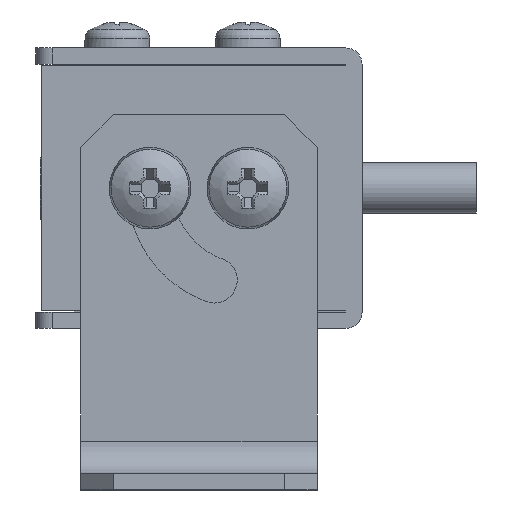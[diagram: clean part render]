
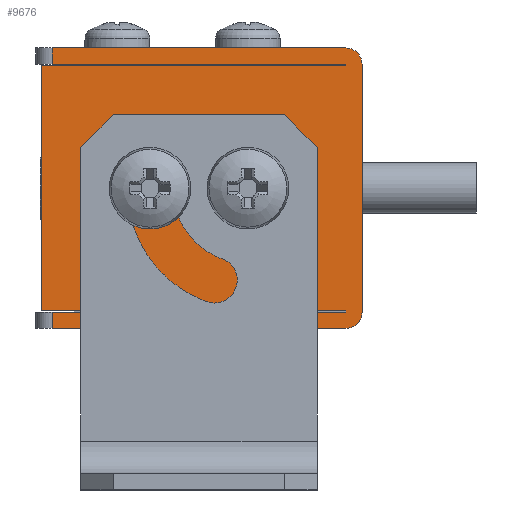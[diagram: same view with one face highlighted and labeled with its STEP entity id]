
A CAD part, left-side view. The second image highlights one B-rep face of the part: STEP entity #9676.
In plain terms, the highlighted planar face has unit normal (-1, 0, 0).
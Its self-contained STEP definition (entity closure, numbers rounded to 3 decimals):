
#706=FACE_BOUND('',#1985,.T.);
#707=FACE_BOUND('',#1986,.T.);
#773=CIRCLE('',#10279,1.);
#774=CIRCLE('',#10280,1.);
#775=CIRCLE('',#10281,1.25);
#776=CIRCLE('',#10282,1.25);
#1413=FACE_OUTER_BOUND('',#1984,.T.);
#1984=EDGE_LOOP('',(#6411,#6412,#6413,#6414,#6415,#6416,#6417,#6418,#6419,
#6420,#6421,#6422,#6423,#6424));
#1985=EDGE_LOOP('',(#6425));
#1986=EDGE_LOOP('',(#6426));
#2594=LINE('',#14522,#3181);
#2595=LINE('',#14525,#3182);
#2603=LINE('',#14550,#3190);
#2612=LINE('',#14567,#3199);
#2617=LINE('',#14587,#3204);
#2628=LINE('',#14619,#3215);
#2629=LINE('',#14621,#3216);
#2630=LINE('',#14622,#3217);
#2631=LINE('',#14623,#3218);
#2632=LINE('',#14625,#3219);
#2633=LINE('',#14627,#3220);
#2634=LINE('',#14629,#3221);
#3181=VECTOR('',#11487,1000.);
#3182=VECTOR('',#11490,1000.);
#3190=VECTOR('',#11508,1000.);
#3199=VECTOR('',#11519,10.);
#3204=VECTOR('',#11536,1000.);
#3215=VECTOR('',#11563,1000.);
#3216=VECTOR('',#11564,1000.);
#3217=VECTOR('',#11565,1000.);
#3218=VECTOR('',#11566,1000.);
#3219=VECTOR('',#11567,1000.);
#3220=VECTOR('',#11568,1000.);
#3221=VECTOR('',#11569,1000.);
#3766=VERTEX_POINT('',#14516);
#3768=VERTEX_POINT('',#14520);
#3769=VERTEX_POINT('',#14524);
#3780=VERTEX_POINT('',#14547);
#3781=VERTEX_POINT('',#14549);
#3788=VERTEX_POINT('',#14565);
#3796=VERTEX_POINT('',#14584);
#3797=VERTEX_POINT('',#14586);
#3809=VERTEX_POINT('',#14616);
#3810=VERTEX_POINT('',#14618);
#3811=VERTEX_POINT('',#14620);
#3812=VERTEX_POINT('',#14624);
#3813=VERTEX_POINT('',#14626);
#3814=VERTEX_POINT('',#14628);
#3815=VERTEX_POINT('',#14631);
#3816=VERTEX_POINT('',#14633);
#4806=EDGE_CURVE('',#3768,#3766,#2594,.T.);
#4807=EDGE_CURVE('',#3766,#3769,#2595,.T.);
#4819=EDGE_CURVE('',#3780,#3781,#2603,.T.);
#4828=EDGE_CURVE('',#3780,#3788,#2612,.T.);
#4837=EDGE_CURVE('',#3796,#3797,#2617,.T.);
#4853=EDGE_CURVE('',#3796,#3809,#773,.T.);
#4854=EDGE_CURVE('',#3810,#3809,#2628,.T.);
#4855=EDGE_CURVE('',#3810,#3811,#2629,.T.);
#4856=EDGE_CURVE('',#3781,#3811,#2630,.T.);
#4857=EDGE_CURVE('',#3769,#3788,#2631,.T.);
#4858=EDGE_CURVE('',#3812,#3768,#2632,.T.);
#4859=EDGE_CURVE('',#3812,#3813,#2633,.T.);
#4860=EDGE_CURVE('',#3813,#3814,#2634,.T.);
#4861=EDGE_CURVE('',#3814,#3797,#774,.T.);
#4862=EDGE_CURVE('',#3815,#3815,#775,.T.);
#4863=EDGE_CURVE('',#3816,#3816,#776,.T.);
#6411=ORIENTED_EDGE('',*,*,#4837,.F.);
#6412=ORIENTED_EDGE('',*,*,#4853,.T.);
#6413=ORIENTED_EDGE('',*,*,#4854,.F.);
#6414=ORIENTED_EDGE('',*,*,#4855,.T.);
#6415=ORIENTED_EDGE('',*,*,#4856,.F.);
#6416=ORIENTED_EDGE('',*,*,#4819,.F.);
#6417=ORIENTED_EDGE('',*,*,#4828,.T.);
#6418=ORIENTED_EDGE('',*,*,#4857,.F.);
#6419=ORIENTED_EDGE('',*,*,#4807,.F.);
#6420=ORIENTED_EDGE('',*,*,#4806,.F.);
#6421=ORIENTED_EDGE('',*,*,#4858,.F.);
#6422=ORIENTED_EDGE('',*,*,#4859,.T.);
#6423=ORIENTED_EDGE('',*,*,#4860,.T.);
#6424=ORIENTED_EDGE('',*,*,#4861,.T.);
#6425=ORIENTED_EDGE('',*,*,#4862,.T.);
#6426=ORIENTED_EDGE('',*,*,#4863,.T.);
#9463=PLANE('',#10278);
#9676=ADVANCED_FACE('',(#1413,#706,#707),#9463,.F.);
#10278=AXIS2_PLACEMENT_3D('',#14615,#11559,#11560);
#10279=AXIS2_PLACEMENT_3D('',#14617,#11561,#11562);
#10280=AXIS2_PLACEMENT_3D('',#14630,#11570,#11571);
#10281=AXIS2_PLACEMENT_3D('',#14632,#11572,#11573);
#10282=AXIS2_PLACEMENT_3D('',#14634,#11574,#11575);
#11487=DIRECTION('',(0.,0.,1.));
#11490=DIRECTION('',(0.,1.,0.));
#11508=DIRECTION('',(0.,0.,1.));
#11519=DIRECTION('',(0.,1.,0.));
#11536=DIRECTION('',(0.,0.,-1.));
#11559=DIRECTION('center_axis',(1.,0.,0.));
#11560=DIRECTION('ref_axis',(0.,1.,0.));
#11561=DIRECTION('center_axis',(-1.,0.,0.));
#11562=DIRECTION('ref_axis',(0.,1.,0.));
#11563=DIRECTION('',(0.,-1.,0.));
#11564=DIRECTION('',(0.,0.,-1.));
#11565=DIRECTION('',(0.,1.,0.));
#11566=DIRECTION('',(0.,0.,1.));
#11567=DIRECTION('',(0.,-1.,0.));
#11568=DIRECTION('',(0.,0.,-1.));
#11569=DIRECTION('',(0.,-1.,0.));
#11570=DIRECTION('center_axis',(-1.,0.,0.));
#11571=DIRECTION('ref_axis',(0.,1.,0.));
#11572=DIRECTION('center_axis',(1.,0.,0.));
#11573=DIRECTION('ref_axis',(0.,0.,
1.));
#11574=DIRECTION('center_axis',(1.,0.,0.));
#11575=DIRECTION('ref_axis',(0.,0.,
1.));
#14516=CARTESIAN_POINT('',(-52.,1.,1.1));
#14520=CARTESIAN_POINT('',(-52.,1.,1.));
#14522=CARTESIAN_POINT('',(-52.,1.,1.));
#14524=CARTESIAN_POINT('',(-52.,19.65,1.1));
#14525=CARTESIAN_POINT('',(-52.,1.,1.1));
#14547=CARTESIAN_POINT('',(-52.,1.,16.1));
#14549=CARTESIAN_POINT('',(-52.,1.,16.2));
#14550=CARTESIAN_POINT('',(-52.,1.,1.));
#14565=CARTESIAN_POINT('',(-52.,19.65,16.1));
#14567=CARTESIAN_POINT('',(-52.,19.825,16.1));
#14584=CARTESIAN_POINT('',(-52.,0.,16.2));
#14586=CARTESIAN_POINT('',(-52.,0.,1.));
#14587=CARTESIAN_POINT('',(-52.,0.,17.2));
#14615=CARTESIAN_POINT('Origin',(-52.,20.,17.2));
#14616=CARTESIAN_POINT('',(-52.,1.,17.2));
#14617=CARTESIAN_POINT('Origin',(-52.,1.,16.2));
#14618=CARTESIAN_POINT('',(-52.,19.,17.2));
#14619=CARTESIAN_POINT('',(-52.,20.,17.2));
#14620=CARTESIAN_POINT('',(-52.,19.,16.2));
#14621=CARTESIAN_POINT('',(-52.,19.,17.2));
#14622=CARTESIAN_POINT('',(-52.,20.,16.2));
#14623=CARTESIAN_POINT('',(-52.,19.65,1.1));
#14624=CARTESIAN_POINT('',(-52.,19.,1.));
#14625=CARTESIAN_POINT('',(-52.,20.,1.));
#14626=CARTESIAN_POINT('',(-52.,19.,0.));
#14627=CARTESIAN_POINT('',(-52.,19.,17.2));
#14628=CARTESIAN_POINT('',(-52.,1.,0.));
#14629=CARTESIAN_POINT('',(-52.,20.,0.));
#14630=CARTESIAN_POINT('Origin',(-52.,1.,1.));
#14631=CARTESIAN_POINT('',(-52.,13.,7.35));
#14632=CARTESIAN_POINT('Origin',(-52.,13.,8.6));
#14633=CARTESIAN_POINT('',(-52.,7.,7.35));
#14634=CARTESIAN_POINT('Origin',(-52.,7.,8.6));
